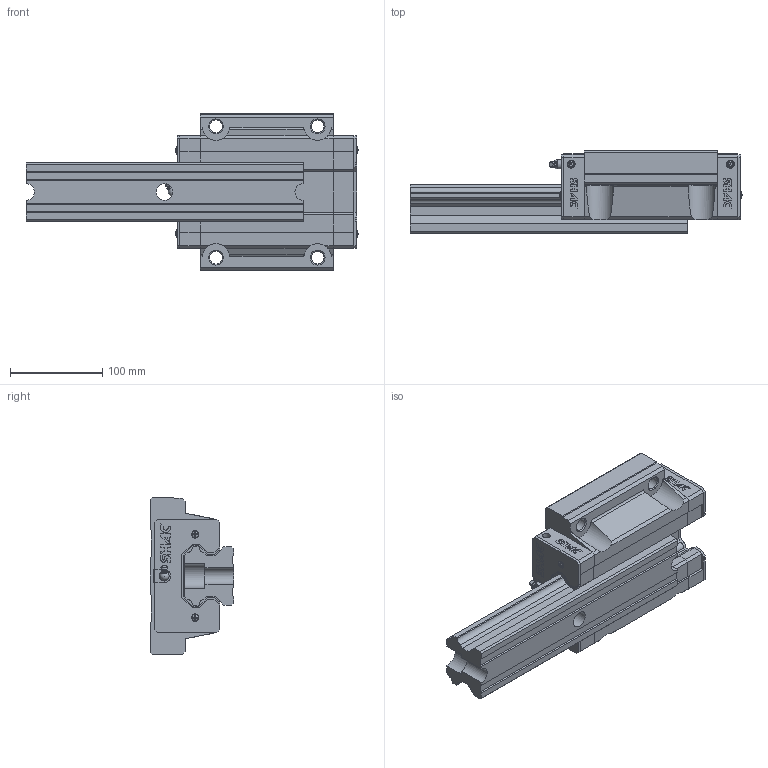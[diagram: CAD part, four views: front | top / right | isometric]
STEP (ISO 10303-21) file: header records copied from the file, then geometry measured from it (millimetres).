
FILE_DESCRIPTION( ( 'STEP AP214' ), '1' );
FILE_NAME( 'F:/品牌/SHAC 台湾鼎翰传动科技有限公司/3D滑块/GHW65CA1R300Z0C-0_0_1_1_.stp', '2025-04-21T22:47:17', ( 'License CC BY-ND 4.0' ), ( 'CADENAS' ), ' ', 'PARTsolutions', ' ' );
FILE_SCHEMA( ( 'AUTOMOTIVE_DESIGN { 1 0 10303 214 1 1 1 1 }' ) );
Length unit declared in the file: millimetre
Products named in the file (8): GHW65CA1R300Z0C-0/0(1_1); _GHR65R300C+RC-0/0(1)_RAIL; _GHW65CA_SLIDER; _GHW65CA_C; _GHW65CA_P; _GH65_SCREW; _GH65_BOLT; _GH65-_G
Assembly tree (12 placements, depth 2):
  GHW65CA1R300Z0C-0/0(1_1)
    _GHR65R300C+RC-0/0(1)_RAIL
    _GHW65CA_SLIDER
    _GHW65CA_C  x2
    _GHW65CA_P  x2
    _GH65_SCREW  x4
    _GH65_BOLT
    _GH65-_G
Bounding box: 359.26 x 90 x 170 mm (x, y, z)
Volume: 2403103 mm3; surface area: 267074.4 mm2
Topology: 12 solids, 12 shells, 816 faces, 2183 edges, 1440 vertices
Faces by surface type: plane 660, cylinder 115, cone 26, torus 9, sphere 5, bspline 1
Full cylindrical faces by diameter (mm): 0.992 x4, 4.5 x1, 4.7 x4, 7.35 x2, 7.76 x4, 8 x4, 8.5 x4, 10 x2, 10.5 x2, 13.835 x4, 18 x1, 26 x1
Entity records: 19827 total; most frequent: CARTESIAN_POINT 2990, ORIENTED_EDGE 2616, DIRECTION 2522, EDGE_CURVE 1308, LINE 1056, VECTOR 1056, VERTEX_POINT 885, AXIS2_PLACEMENT_3D 733
